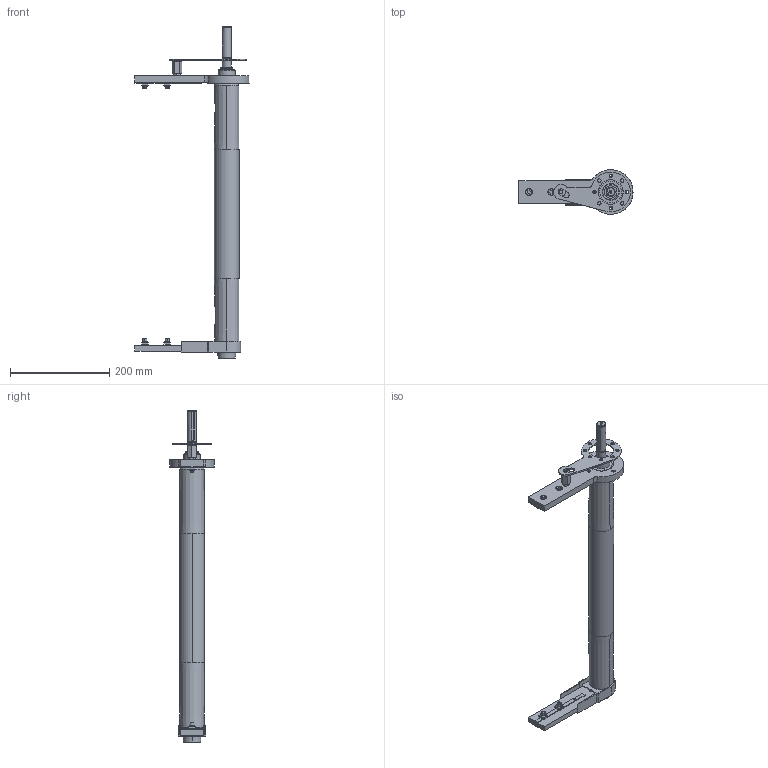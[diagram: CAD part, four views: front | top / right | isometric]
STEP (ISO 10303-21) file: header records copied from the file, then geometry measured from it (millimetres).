
FILE_DESCRIPTION (( 'STEP AP214' ), '1' );
FILE_NAME ('084.050.KD.44.500.STEP', '2019-11-27T10:56:09', ( '' ), ( '' ), 'SwSTEP 2.0', 'SolidWorks 2018', '' );
FILE_SCHEMA (( 'AUTOMOTIVE_DESIGN' ));
Length unit declared in the file: millimetre
Products named in the file (15): 084.807.005; 084.802.023_RIFILATO; 084.802.027; 084.811.004; 084.301.000 VITI ALUSIC_084.301.003; 084.810.001; 084.050.KD.44.500; DADI ESAGONALI RIBASSATI UNI 5589_M8 UNI 5589; 084.815.120_Default<A macchina>; 084.811.002; 084.807.001_084.807.001; 084.302.000 DADI ALUSIC 13x13_084.302.004; 084.802.034_084.802.034; 084.802.017_084.802.017; 084.807.002_084.807.002
Assembly tree (21 placements, depth 2):
  084.050.KD.44.500
    084.807.002_084.807.002
    084.802.017_084.802.017
    084.811.004
    084.815.120_Default<A macchina>
    084.810.001  x2
    084.301.000 VITI ALUSIC_084.301.003  x4
    084.302.000 DADI ALUSIC 13x13_084.302.004  x4
    084.802.027
    084.807.005
    084.807.001_084.807.001
    084.802.034_084.802.034
    084.811.002
    084.802.023_RIFILATO
    DADI ESAGONALI RIBASSATI UNI 5589_M8 UNI 5589
Bounding box: 230 x 90 x 669 mm (x, y, z)
Volume: 743681.6 mm3; surface area: 415171.1 mm2
Topology: 26 solids, 27 shells, 708 faces, 1780 edges, 1152 vertices
Faces by surface type: plane 298, cylinder 243, cone 80, torus 70, sphere 9, bspline 8
Entity records: 18618 total; most frequent: CARTESIAN_POINT 3657, DIRECTION 3115, ORIENTED_EDGE 2808, EDGE_CURVE 1404, AXIS2_PLACEMENT_3D 1233, VERTEX_POINT 909, EDGE_LOOP 667, CIRCLE 659
